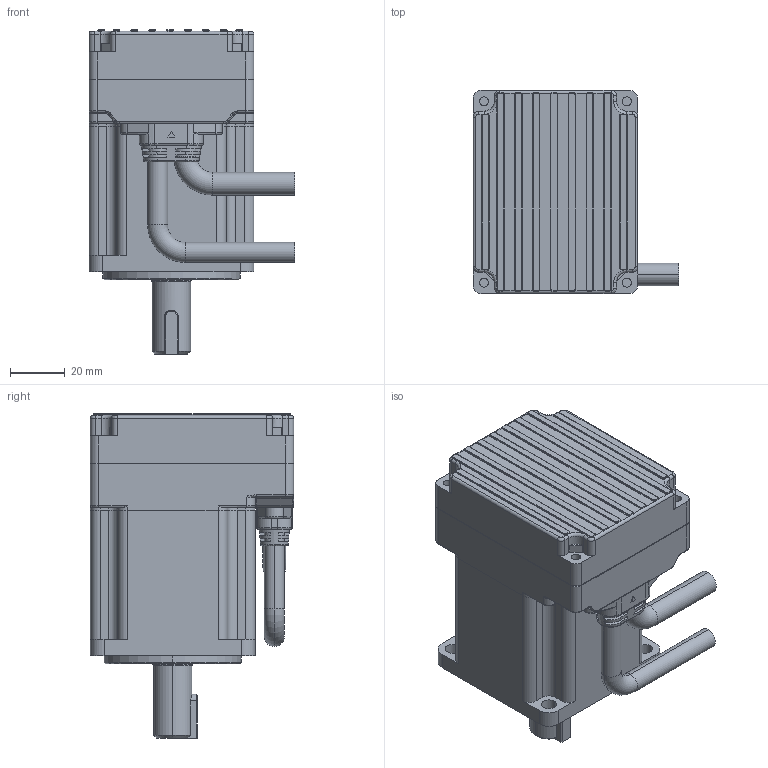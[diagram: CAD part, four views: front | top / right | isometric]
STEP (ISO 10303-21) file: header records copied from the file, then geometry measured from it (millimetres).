
FILE_DESCRIPTION((''),'2;1');
FILE_NAME('000-ISMK60-020-DMAK-AA1','2023-11-16T16:27:12',('RD0060'),(''),'CREO PARAMETRIC BY PTC INC, 2016510','CREO PARAMETRIC BY PTC INC, 2016510','');
FILE_SCHEMA(('CONFIG_CONTROL_DESIGN'));
Length unit declared in the file: millimetre
Products named in the file (1): 000-ISMK60-020-DMAK-AA1
Bounding box: 75 x 74 x 118 mm (x, y, z)
Surface area: 47278.1 mm2 (no closed solid volume)
Topology: 0 solids, 32 shells, 602 faces, 1802 edges, 1224 vertices
Faces by surface type: cylinder 267, plane 232, torus 66, cone 21, bspline 16
Entity records: 22011 total; most frequent: CARTESIAN_POINT 5734, DIRECTION 3597, ORIENTED_EDGE 3109, EDGE_CURVE 1800, AXIS2_PLACEMENT_3D 1358, VERTEX_POINT 1224, VECTOR 881, LINE 881
